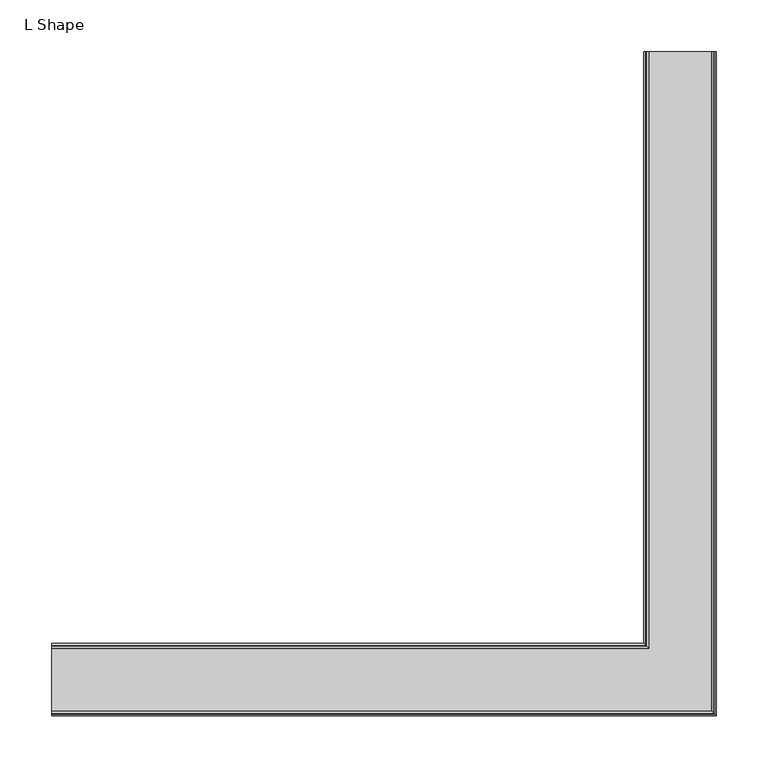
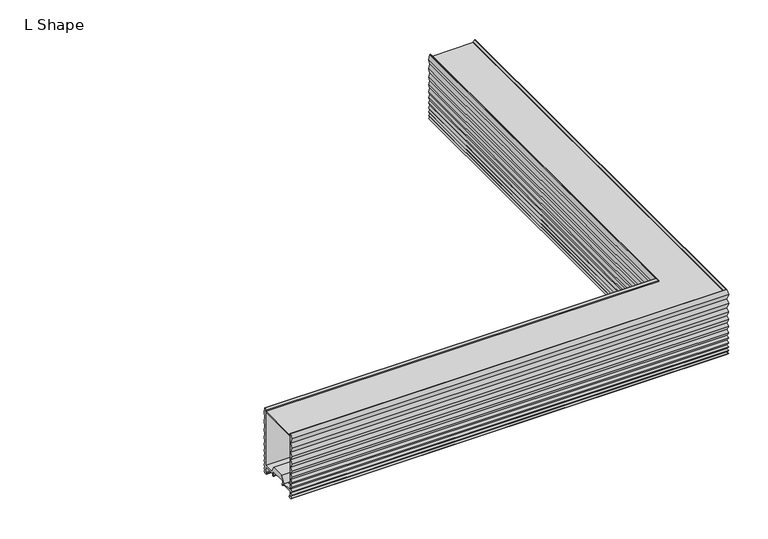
"""IFC4 building model written with IfcOpenShell, lengths in millimetres: light fixture geometry, Lighting-Ceiling-Betacalco-Bellows-L_Shape : L Shape."""

from ifc_helpers import new_model, si_unit, point, frame, frame_2d, origin, place, context, project, spatial, polyline, circle_curve, ellipse_curve, trimmed, segment, composite_curve, outline, extrude, source, transform, mapped, element, save
from ifc_brep_helpers import plane_surface, cylinder_surface, advanced_brep


def l_shape_622036a6(model_context):
    return source(origin(), model_context, "Body", "SolidModel", [
        extrude(outline(composite_curve([segment(trimmed(circle_curve(frame_2d((304.8, 0.0)), 1.5875), [point((303.2125, 0.0))], [point((306.3875, 0.0))], False, "CARTESIAN"), True, "CONTINUOUS"), segment(trimmed(circle_curve(frame_2d((304.8, 0.0)), 1.5875), [point((306.3875, 0.0))], [point((303.2125, 0.0))], False, "CARTESIAN"), True, "CONTINUOUS")], self_intersect=False)), frame((0.0, 0.0, 13.5891701), z_axis=(0.0, 0.0, 1.0), x_axis=(1.0, 0.0, 0.0)), (0.0, 0.0, 1.0), 1.2441624),
        advanced_brep(
        [(273.578, 609.6, 10.668), (273.578, 609.6, 2.159), (276.1074155, 609.6, 2.159), (274.1622, 609.6, 0.0), (271.5112057, 609.6, 0.0), (269.6378379, 609.6, 2.0283861), (271.419, 609.6, 4.064), (269.641, 609.6, 6.604), (271.419, 609.6, 9.144), (269.641, 609.6, 12.192), (271.419, 609.6, 15.24), (269.641, 609.6, 18.796), (271.419, 609.6, 22.352), (269.641, 609.6, 26.162), (271.419, 609.6, 29.972), (269.6696413, 609.6, 34.4703509), (271.3917998, 609.6, 39.0460566), (269.6644945, 609.6, 44.1288728), (271.3965785, 609.6, 49.2119386), (269.6606035, 609.6, 54.802389), (271.4002163, 609.6, 60.3929656), (269.6575947, 609.6, 66.491104), (271.4035969, 609.6, 72.5911894), (269.6533208, 609.6, 79.7067168), (271.4068918, 609.6, 86.8195673), (269.6525087, 609.6, 94.186321), (271.4185068, 609.6, 101.6), (272.2122568, 609.6, 101.6), (274.37175, 609.6, 99.2470342), (274.37175, 609.6, 97.7961196), (273.578, 609.6, 97.7961196), (273.578, 609.6, 12.827), (289.3193854, 609.6, 12.827), (294.1777745, 609.6, 22.5473325), (315.4222255, 609.6, 22.5473325), (320.2806146, 609.6, 12.827), (336.022, 609.6, 12.827), (336.022, 609.6, 97.7961196), (335.22825, 609.6, 97.7961196), (335.22825, 609.6, 99.2470342), (337.3877432, 609.6, 101.6), (338.1814932, 609.6, 101.6), (339.9474913, 609.6, 94.186321), (338.1931082, 609.6, 86.8195673), (339.9466792, 609.6, 79.7067168), (338.1964031, 609.6, 72.5911894), (339.9424053, 609.6, 66.491104), (338.1997837, 609.6, 60.3929656), (339.9393965, 609.6, 54.802389), (338.2034215, 609.6, 49.2119386), (339.9355055, 609.6, 44.1288728), (338.2082002, 609.6, 39.0460566), (339.9303587, 609.6, 34.4703509), (338.181, 609.6, 29.972), (339.959, 609.6, 26.162), (338.181, 609.6, 22.352), (339.959, 609.6, 18.796), (338.181, 609.6, 15.24), (339.959, 609.6, 12.192), (338.181, 609.6, 9.144), (339.959, 609.6, 6.604), (338.181, 609.6, 4.064), (339.9621621, 609.6, 2.0283861), (338.0887943, 609.6, 0.0), (335.4378, 609.6, 0.0), (333.4925845, 609.6, 2.159), (336.022, 609.6, 2.159), (336.022, 609.6, 10.668), (318.3129289, 609.6, 10.668), (317.5429679, 609.6, 8.614822), (315.8552644, 609.6, 9.2406239), (317.48601, 609.6, 13.5891701), (316.8641563, 609.6, 14.8333325), (292.7358437, 609.6, 14.8333325), (292.11399, 609.6, 13.5891701), (293.7447356, 609.6, 9.2406239), (292.0570321, 609.6, 8.614822), (291.2870711, 609.6, 10.668), (-304.8, 31.222, 10.668), (-304.8, 13.5129289, 10.668), (-304.8, 12.7429679, 8.614822), (-304.8, 11.0552644, 9.2406239), (-304.8, 12.68601, 13.5891701), (-304.8, 12.0641563, 14.8333325), (-304.8, -12.0641563, 14.8333325), (-304.8, -12.68601, 13.5891701), (-304.8, -11.0552644, 9.2406239), (-304.8, -12.7429679, 8.614822), (-304.8, -13.5129289, 10.668), (-304.8, -31.222, 10.668), (-304.8, -31.222, 2.159), (-304.8, -28.6925845, 2.159), (-304.8, -30.6378, 0.0), (-304.8, -33.2887943, 0.0), (-304.8, -35.1621621, 2.0283861), (-304.8, -33.381, 4.064), (-304.8, -35.159, 6.604), (-304.8, -33.381, 9.144), (-304.8, -35.159, 12.192), (-304.8, -33.381, 15.24), (-304.8, -35.159, 18.796), (-304.8, -33.381, 22.352), (-304.8, -35.159, 26.162), (-304.8, -33.381, 29.972), (-304.8, -35.1303587, 34.4703509), (-304.8, -33.4082002, 39.0460566), (-304.8, -35.1355055, 44.1288728), (-304.8, -33.4034215, 49.2119386), (-304.8, -35.1393965, 54.802389), (-304.8, -33.3997837, 60.3929656), (-304.8, -35.1424053, 66.491104), (-304.8, -33.3964031, 72.5911894), (-304.8, -35.1466792, 79.7067168), (-304.8, -33.3931082, 86.8195673), (-304.8, -35.1474913, 94.186321), (-304.8, -33.3814932, 101.6), (-304.8, -32.5877432, 101.6), (-304.8, -30.42825, 99.2470342), (-304.8, -30.42825, 97.7961196), (-304.8, -31.222, 97.7961196), (-304.8, -31.222, 12.827), (-304.8, -15.4806146, 12.827), (-304.8, -10.6222255, 22.5473325), (-304.8, 10.6222255, 22.5473325), (-304.8, 15.4806146, 12.827), (-304.8, 31.222, 12.827), (-304.8, 31.222, 97.7961196), (-304.8, 30.42825, 97.7961196), (-304.8, 30.42825, 99.2470342), (-304.8, 32.5877432, 101.6), (-304.8, 33.3814932, 101.6), (-304.8, 35.1474913, 94.186321), (-304.8, 33.3931082, 86.8195673), (-304.8, 35.1466792, 79.7067168), (-304.8, 33.3964031, 72.5911894), (-304.8, 35.1424053, 66.491104), (-304.8, 33.3997837, 60.3929656), (-304.8, 35.1393965, 54.802389), (-304.8, 33.4034215, 49.2119386), (-304.8, 35.1355055, 44.1288728), (-304.8, 33.4082002, 39.0460566), (-304.8, 35.1303587, 34.4703509), (-304.8, 33.381, 29.972), (-304.8, 35.159, 26.162), (-304.8, 33.381, 22.352), (-304.8, 35.159, 18.796), (-304.8, 33.381, 15.24), (-304.8, 35.159, 12.192), (-304.8, 33.381, 9.144), (-304.8, 35.159, 6.604), (-304.8, 33.381, 4.064), (-304.8, 35.1621621, 2.0283861), (-304.8, 33.2887943, 0.0), (-304.8, 30.6378, 0.0), (-304.8, 28.6925845, 2.159), (-304.8, 31.222, 2.159), (292.0570321, 12.7429679, 8.614822), (291.2870711, 13.5129289, 10.668), (293.7447356, 11.0552644, 9.2406239), (292.11399, 12.68601, 13.5891701), (292.7358437, 12.0641563, 14.8333325), (317.48601, -12.68601, 13.5891701), (316.8641563, -12.0641563, 14.8333325), (315.8552644, -11.0552644, 9.2406239), (317.5429679, -12.7429679, 8.614822), (318.3129289, -13.5129289, 10.668), (336.022, -31.222, 2.159), (336.022, -31.222, 10.668), (335.4378, -30.6378, 0.0), (333.4925845, -28.6925845, 2.159), (339.9621621, -35.1621621, 2.0283861), (338.0887943, -33.2887943, 0.0), (338.181, -33.381, 4.064), (339.959, -35.159, 6.604), (338.181, -33.381, 9.144), (339.959, -35.159, 12.192), (338.181, -33.381, 15.24), (339.959, -35.159, 18.796), (338.181, -33.381, 22.352), (339.959, -35.159, 26.162), (338.181, -33.381, 29.972), (339.9303587, -35.1303587, 34.4703509), (338.2082002, -33.4082002, 39.0460566), (339.9355055, -35.1355055, 44.1288728), (338.2034215, -33.4034215, 49.2119386), (339.9393965, -35.1393965, 54.802389), (338.1997837, -33.3997837, 60.3929656), (339.9424053, -35.1424053, 66.491104), (338.1964031, -33.3964031, 72.5911894), (339.9466792, -35.1466792, 79.7067168), (338.1931082, -33.3931082, 86.8195673), (339.9474913, -35.1474913, 94.186321), (338.1814932, -33.3814932, 101.6), (335.22825, -30.42825, 99.2470342), (337.3877432, -32.5877432, 101.6), (335.22825, -30.42825, 97.7961196), (336.022, -31.222, 12.827), (336.022, -31.222, 97.7961196), (315.4222255, -10.6222255, 22.5473325), (320.2806146, -15.4806146, 12.827), (289.3193854, 15.4806146, 12.827), (294.1777745, 10.6222255, 22.5473325), (273.578, 31.222, 97.7961196), (273.578, 31.222, 12.827), (274.37175, 30.42825, 99.2470342), (274.37175, 30.42825, 97.7961196), (272.2122568, 32.5877432, 101.6), (269.6525087, 35.1474913, 94.186321), (271.4185068, 33.3814932, 101.6), (271.4068918, 33.3931082, 86.8195673), (269.6533208, 35.1466792, 79.7067168), (271.4035969, 33.3964031, 72.5911894), (269.6575947, 35.1424053, 66.491104), (271.4002163, 33.3997837, 60.3929656), (269.6606035, 35.1393965, 54.802389), (271.3965785, 33.4034215, 49.2119386), (269.6644945, 35.1355055, 44.1288728), (271.3917998, 33.4082002, 39.0460566), (269.6696413, 35.1303587, 34.4703509), (271.419, 33.381, 29.972), (269.641, 35.159, 26.162), (271.419, 33.381, 22.352), (269.641, 35.159, 18.796), (271.419, 33.381, 15.24), (269.641, 35.159, 12.192), (271.419, 33.381, 9.144), (269.641, 35.159, 6.604), (271.419, 33.381, 4.064), (269.6378379, 35.1621621, 2.0283861), (271.5112057, 33.2887943, 0.0), (276.1074155, 28.6925845, 2.159), (274.1622, 30.6378, 0.0), (273.578, 31.222, 10.668), (273.578, 31.222, 2.159)],
        [
            (0, 1),
            (1, 2),
            (2, 3, circle_curve(frame((274.1622, 609.6, 1.9558), z_axis=(0.0, 1.0, 0.0), x_axis=(0.0, 0.0, -1.0)), 1.9558)),
            (3, 4),
            (4, 5),
            (5, 6),
            (6, 7),
            (7, 8),
            (8, 9),
            (9, 10),
            (10, 11),
            (11, 12),
            (12, 13),
            (13, 14),
            (14, 15),
            (15, 16),
            (16, 17),
            (17, 18),
            (18, 19),
            (19, 20),
            (20, 21),
            (21, 22),
            (22, 23),
            (23, 24),
            (24, 25),
            (25, 26),
            (26, 27),
            (27, 28),
            (28, 29),
            (29, 30),
            (30, 31),
            (31, 32),
            (32, 33),
            (33, 34),
            (34, 35),
            (35, 36),
            (36, 37),
            (37, 38),
            (38, 39),
            (39, 40),
            (40, 41),
            (41, 42),
            (42, 43),
            (43, 44),
            (44, 45),
            (45, 46),
            (46, 47),
            (47, 48),
            (48, 49),
            (49, 50),
            (50, 51),
            (51, 52),
            (52, 53),
            (53, 54),
            (54, 55),
            (55, 56),
            (56, 57),
            (57, 58),
            (58, 59),
            (59, 60),
            (60, 61),
            (61, 62),
            (62, 63),
            (63, 64),
            (64, 65, circle_curve(frame((335.4378, 609.6, 1.9558), z_axis=(0.0, 1.0, 0.0), x_axis=(0.0, 0.0, -1.0)), 1.9558)),
            (65, 66),
            (66, 67),
            (67, 68),
            (68, 69),
            (69, 70, circle_curve(frame((316.7002723, 609.6, 8.9308408), z_axis=(0.0, 1.0, 0.0), x_axis=(-0.34325550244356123, 0.0, -0.9392420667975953)), 0.9000021)),
            (70, 71),
            (71, 72),
            (72, 73),
            (73, 74),
            (74, 75),
            (75, 76, circle_curve(frame((292.8997277, 609.6, 8.9308408), z_axis=(0.0, 1.0, 0.0), x_axis=(0.34325550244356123, 0.0, -0.9392420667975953)), 0.9000021)),
            (76, 77),
            (77, 0),
            (78, 79),
            (79, 80),
            (80, 81, circle_curve(frame((-304.8, 11.9002723, 8.9308408), z_axis=(-1.0, 0.0, 0.0), x_axis=(0.0, -0.34325550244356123, -0.9392420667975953)), 0.9000021)),
            (81, 82),
            (82, 83),
            (83, 84),
            (84, 85),
            (85, 86),
            (86, 87, circle_curve(frame((-304.8, -11.9002723, 8.9308408), z_axis=(-1.0, 0.0, 0.0), x_axis=(0.0, 0.34325550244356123, -0.9392420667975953)), 0.9000021)),
            (87, 88),
            (88, 89),
            (89, 90),
            (90, 91),
            (91, 92, circle_curve(frame((-304.8, -30.6378, 1.9558), z_axis=(-1.0, 0.0, 0.0), x_axis=(0.0, 0.0, -1.0)), 1.9558)),
            (92, 93),
            (93, 94),
            (94, 95),
            (95, 96),
            (96, 97),
            (97, 98),
            (98, 99),
            (99, 100),
            (100, 101),
            (101, 102),
            (102, 103),
            (103, 104),
            (104, 105),
            (105, 106),
            (106, 107),
            (107, 108),
            (108, 109),
            (109, 110),
            (110, 111),
            (111, 112),
            (112, 113),
            (113, 114),
            (114, 115),
            (115, 116),
            (116, 117),
            (117, 118),
            (118, 119),
            (119, 120),
            (120, 121),
            (121, 122),
            (122, 123),
            (123, 124),
            (124, 125),
            (125, 126),
            (126, 127),
            (127, 128),
            (128, 129),
            (129, 130),
            (130, 131),
            (131, 132),
            (132, 133),
            (133, 134),
            (134, 135),
            (135, 136),
            (136, 137),
            (137, 138),
            (138, 139),
            (139, 140),
            (140, 141),
            (141, 142),
            (142, 143),
            (143, 144),
            (144, 145),
            (145, 146),
            (146, 147),
            (147, 148),
            (148, 149),
            (149, 150),
            (150, 151),
            (151, 152),
            (152, 153),
            (153, 154, circle_curve(frame((-304.8, 30.6378, 1.9558), z_axis=(-1.0, 0.0, 0.0), x_axis=(0.0, 0.0, -1.0)), 1.9558)),
            (154, 155),
            (155, 78),
            (156, 80),
            (79, 157),
            (157, 156),
            (158, 81),
            (156, 158, ellipse_curve(frame((292.8997277, 11.9002723, 8.9308408), z_axis=(-0.7071067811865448, -0.7071067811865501, 0.0), x_axis=(0.7071067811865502, -0.7071067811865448, 0.0)), 1.2727952, 0.9000021)),
            (159, 82),
            (158, 159),
            (160, 83),
            (159, 160),
            (161, 85),
            (84, 162),
            (162, 161),
            (163, 86),
            (161, 163),
            (164, 87),
            (163, 164, ellipse_curve(frame((316.7002723, -11.9002723, 8.9308408), z_axis=(-0.7071067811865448, -0.7071067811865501, 0.0), x_axis=(0.7071067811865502, -0.7071067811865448, 0.0)), 1.2727952, 0.9000021)),
            (165, 88),
            (164, 165),
            (166, 90),
            (89, 167),
            (167, 166),
            (168, 92),
            (91, 169),
            (169, 168, ellipse_curve(frame((335.4378, -30.6378, 1.9558), z_axis=(-0.7071067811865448, -0.7071067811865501, 0.0), x_axis=(0.7071067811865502, -0.7071067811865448, 0.0)), 2.7659189, 1.9558)),
            (170, 94),
            (93, 171),
            (171, 170),
            (172, 95),
            (170, 172),
            (173, 96),
            (172, 173),
            (174, 97),
            (173, 174),
            (175, 98),
            (174, 175),
            (176, 99),
            (175, 176),
            (177, 100),
            (176, 177),
            (178, 101),
            (177, 178),
            (179, 102),
            (178, 179),
            (180, 103),
            (179, 180),
            (181, 104),
            (180, 181),
            (182, 105),
            (181, 182),
            (183, 106),
            (182, 183),
            (184, 107),
            (183, 184),
            (185, 108),
            (184, 185),
            (186, 109),
            (185, 186),
            (187, 110),
            (186, 187),
            (188, 111),
            (187, 188),
            (189, 112),
            (188, 189),
            (190, 113),
            (189, 190),
            (191, 114),
            (190, 191),
            (192, 115),
            (191, 192),
            (193, 117),
            (116, 194),
            (194, 193),
            (195, 118),
            (193, 195),
            (196, 120),
            (119, 197),
            (197, 196),
            (198, 122),
            (121, 199),
            (199, 198),
            (200, 124),
            (123, 201),
            (201, 200),
            (202, 126),
            (125, 203),
            (203, 202),
            (204, 128),
            (127, 205),
            (205, 204),
            (206, 129),
            (204, 206),
            (207, 131),
            (130, 208),
            (208, 207),
            (209, 132),
            (207, 209),
            (210, 133),
            (209, 210),
            (211, 134),
            (210, 211),
            (212, 135),
            (211, 212),
            (213, 136),
            (212, 213),
            (214, 137),
            (213, 214),
            (215, 138),
            (214, 215),
            (216, 139),
            (215, 216),
            (217, 140),
            (216, 217),
            (218, 141),
            (217, 218),
            (219, 142),
            (218, 219),
            (220, 143),
            (219, 220),
            (221, 144),
            (220, 221),
            (222, 145),
            (221, 222),
            (223, 146),
            (222, 223),
            (224, 147),
            (223, 224),
            (225, 148),
            (224, 225),
            (226, 149),
            (225, 226),
            (227, 150),
            (226, 227),
            (228, 151),
            (227, 228),
            (229, 152),
            (228, 229),
            (230, 154),
            (153, 231),
            (231, 230, ellipse_curve(frame((274.1622, 30.6378, 1.9558), z_axis=(-0.7071067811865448, -0.7071067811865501, 0.0), x_axis=(0.7071067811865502, -0.7071067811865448, 0.0)), 2.7659189, 1.9558)),
            (232, 78),
            (155, 233),
            (233, 232),
            (77, 157),
            (232, 0),
            (76, 156),
            (75, 158),
            (74, 159),
            (73, 160),
            (72, 162),
            (71, 161),
            (70, 163),
            (69, 164),
            (68, 165),
            (67, 167),
            (66, 166),
            (65, 169),
            (64, 168),
            (63, 171),
            (62, 170),
            (61, 172),
            (60, 173),
            (59, 174),
            (58, 175),
            (57, 176),
            (56, 177),
            (55, 178),
            (54, 179),
            (53, 180),
            (52, 181),
            (51, 182),
            (50, 183),
            (49, 184),
            (48, 185),
            (47, 186),
            (46, 187),
            (45, 188),
            (44, 189),
            (43, 190),
            (42, 191),
            (41, 192),
            (40, 194),
            (39, 193),
            (38, 195),
            (37, 197),
            (36, 196),
            (35, 199),
            (34, 198),
            (33, 201),
            (32, 200),
            (31, 203),
            (30, 202),
            (29, 205),
            (28, 204),
            (27, 206),
            (26, 208),
            (25, 207),
            (24, 209),
            (23, 210),
            (22, 211),
            (21, 212),
            (20, 213),
            (19, 214),
            (18, 215),
            (17, 216),
            (16, 217),
            (15, 218),
            (14, 219),
            (13, 220),
            (12, 221),
            (11, 222),
            (10, 223),
            (9, 224),
            (8, 225),
            (7, 226),
            (6, 227),
            (5, 228),
            (4, 229),
            (3, 231),
            (2, 230),
            (1, 233),
        ],
        [
            plane_surface(frame((304.8, 609.6, 0.0), z_axis=(0.0, 1.0, 0.0), x_axis=(0.0, 0.0, 1.0))),
            plane_surface(frame((-304.8, 0.0, 0.0), z_axis=(-1.0, 0.0, 0.0), x_axis=(0.0, 0.0, 1.0))),
            plane_surface(frame((291.2870711, 13.5129289, 10.668), z_axis=(0.0, 0.9363262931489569, -0.3511311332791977), x_axis=(-1.0, 0.0, 0.0))),
            cylinder_surface(frame((304.8, 11.9002723, 8.9308408), z_axis=(1.0, 0.0, 0.0), x_axis=(0.0, -0.34325550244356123, -0.9392420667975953)), 0.9000021),
            plane_surface(frame((293.7447356, 11.0552644, 9.2406239), z_axis=(0.0, -0.9363262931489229, 0.35113113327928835), x_axis=(-1.0, 0.0, 0.0))),
            plane_surface(frame((292.11399, 12.68601, 13.5891701), z_axis=(0.0, -0.89449260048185, -0.44708275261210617), x_axis=(-1.0, 0.0, 0.0))),
            plane_surface(frame((316.8641563, -12.0641563, 14.8333325), z_axis=(0.0, 0.89449260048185, -0.44708275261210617), x_axis=(-1.0, 0.0, 0.0))),
            plane_surface(frame((317.48601, -12.68601, 13.5891701), z_axis=(0.0, 0.9363262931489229, 0.35113113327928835), x_axis=(-1.0, 0.0, 0.0))),
            cylinder_surface(frame((304.8, -11.9002723, 8.9308408), z_axis=(1.0, 0.0, 0.0), x_axis=(0.0, 0.34325550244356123, -0.9392420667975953)), 0.9000021),
            plane_surface(frame((317.5429679, -12.7429679, 8.614822), z_axis=(0.0, -0.9363262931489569, -0.3511311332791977), x_axis=(-1.0, 0.0, 0.0))),
            plane_surface(frame((336.022, -31.222, 10.668), z_axis=(0.0, 1.0, 0.0), x_axis=(-1.0, 0.0, 0.0))),
            cylinder_surface(frame((304.8, -30.6378, 1.9558), z_axis=(1.0, 0.0, 0.0), x_axis=(0.0, 0.0, -1.0)), 1.9558),
            plane_surface(frame((338.0887943, -33.2887943, 0.0), z_axis=(0.0, -0.7346208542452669, -0.6784778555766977), x_axis=(-1.0, 0.0, 0.0))),
            plane_surface(frame((339.9621621, -35.1621621, 2.0283861), z_axis=(0.0, -0.75257669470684, 0.6585046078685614), x_axis=(-1.0, 0.0, 0.0))),
            plane_surface(frame((338.181, -33.381, 4.064), z_axis=(0.0, -0.8192319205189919, -0.5734623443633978), x_axis=(-1.0, 0.0, 0.0))),
            plane_surface(frame((339.959, -35.159, 6.604), z_axis=(0.0, -0.8192319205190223, 0.5734623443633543), x_axis=(-1.0, 0.0, 0.0))),
            plane_surface(frame((338.181, -33.381, 9.144), z_axis=(0.0, -0.8637789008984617, -0.503871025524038), x_axis=(-1.0, 0.0, 0.0))),
            plane_surface(frame((339.959, -35.159, 12.192), z_axis=(0.0, -0.8637789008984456, 0.5038710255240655), x_axis=(-1.0, 0.0, 0.0))),
            plane_surface(frame((338.181, -33.381, 15.24), z_axis=(0.0, -0.8944271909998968, -0.4472135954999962), x_axis=(-1.0, 0.0, 0.0))),
            plane_surface(frame((339.959, -35.159, 18.796), z_axis=(0.0, -0.8944271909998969, 0.44721359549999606), x_axis=(-1.0, 0.0, 0.0))),
            plane_surface(frame((338.181, -33.381, 22.352), z_axis=(0.0, -0.9061831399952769, -0.4228854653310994), x_axis=(-1.0, 0.0, 0.0))),
            plane_surface(frame((339.959, -35.159, 26.162), z_axis=(0.0, -0.9061831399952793, 0.4228854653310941), x_axis=(-1.0, 0.0, 0.0))),
            plane_surface(frame((338.181, -33.381, 29.972), z_axis=(0.0, -0.9320046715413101, -0.362446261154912), x_axis=(-1.0, 0.0, 0.0))),
            plane_surface(frame((339.9303587, -35.1303587, 34.4703509), z_axis=(0.0, -0.9359069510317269, 0.35224732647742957), x_axis=(-1.0, 0.0, 0.0))),
            plane_surface(frame((338.2082002, -33.4082002, 39.0460566), z_axis=(0.0, -0.9468211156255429, -0.3217604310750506), x_axis=(-1.0, 0.0, 0.0))),
            plane_surface(frame((339.9355055, -35.1355055, 44.1288728), z_axis=(0.0, -0.9465545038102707, 0.3225439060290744), x_axis=(-1.0, 0.0, 0.0))),
            plane_surface(frame((338.2034215, -33.4034215, 49.2119386), z_axis=(0.0, -0.9550153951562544, -0.2965562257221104), x_axis=(-1.0, 0.0, 0.0))),
            plane_surface(frame((339.9393965, -35.1393965, 54.802389), z_axis=(0.0, -0.9548411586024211, 0.29711674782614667), x_axis=(-1.0, 0.0, 0.0))),
            plane_surface(frame((338.1997837, -33.3997837, 60.3929656), z_axis=(0.0, -0.9615116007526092, -0.2747643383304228), x_axis=(-1.0, 0.0, 0.0))),
            plane_surface(frame((339.9424053, -35.1424053, 66.491104), z_axis=(0.0, -0.9613939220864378, 0.27517581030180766), x_axis=(-1.0, 0.0, 0.0))),
            plane_surface(frame((338.1964031, -33.3964031, 72.5911894), z_axis=(0.0, -0.971054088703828, -0.23885970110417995), x_axis=(-1.0, 0.0, 0.0))),
            plane_surface(frame((339.9466792, -35.1466792, 79.7067168), z_axis=(0.0, -0.9709287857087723, 0.23936852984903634), x_axis=(-1.0, 0.0, 0.0))),
            plane_surface(frame((338.1931082, -33.3931082, 86.8195673), z_axis=(0.0, -0.9727944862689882, -0.23166978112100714), x_axis=(-1.0, 0.0, 0.0))),
            plane_surface(frame((339.9474913, -35.1474913, 94.186321), z_axis=(0.0, -0.9727814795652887, 0.23172439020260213), x_axis=(-1.0, 0.0, 0.0))),
            plane_surface(frame((337.3877432, -32.5877432, 101.6), z_axis=(0.0, 0.7367472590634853, 0.6761682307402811), x_axis=(-1.0, 0.0, 0.0))),
            plane_surface(frame((335.22825, -30.42825, 99.2470342), z_axis=(0.0, 1.0, 0.0), x_axis=(-1.0, 0.0, 0.0))),
            plane_surface(frame((336.022, -31.222, 97.7961196), z_axis=(0.0, 1.0, 0.0), x_axis=(-1.0, 0.0, 0.0))),
            plane_surface(frame((320.2806146, -15.4806146, 12.827), z_axis=(0.0, -0.8944926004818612, 0.4470827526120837), x_axis=(-1.0, 0.0, 0.0))),
            plane_surface(frame((294.1777745, 10.6222255, 22.5473325), z_axis=(0.0, 0.8944926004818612, 0.4470827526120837), x_axis=(-1.0, 0.0, 0.0))),
            plane_surface(frame((273.578, 31.222, 12.827), z_axis=(0.0, -1.0, 0.0), x_axis=(-1.0, 0.0, 0.0))),
            plane_surface(frame((274.37175, 30.42825, 97.7961196), z_axis=(0.0, -1.0, 0.0), x_axis=(-1.0, 0.0, 0.0))),
            plane_surface(frame((274.37175, 30.42825, 99.2470342), z_axis=(0.0, -0.7367472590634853, 0.6761682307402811), x_axis=(-1.0, 0.0, 0.0))),
            plane_surface(frame((271.4185068, 33.3814932, 101.6), z_axis=(0.0, 0.9727814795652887, 0.23172439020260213), x_axis=(-1.0, 0.0, 0.0))),
            plane_surface(frame((269.6525087, 35.1474913, 94.186321), z_axis=(0.0, 0.9727944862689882, -0.23166978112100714), x_axis=(-1.0, 0.0, 0.0))),
            plane_surface(frame((271.4068918, 33.3931082, 86.8195673), z_axis=(0.0, 0.9709287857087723, 0.23936852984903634), x_axis=(-1.0, 0.0, 0.0))),
            plane_surface(frame((269.6533208, 35.1466792, 79.7067168), z_axis=(0.0, 0.971054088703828, -0.23885970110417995), x_axis=(-1.0, 0.0, 0.0))),
            plane_surface(frame((271.4035969, 33.3964031, 72.5911894), z_axis=(0.0, 0.9613939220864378, 0.27517581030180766), x_axis=(-1.0, 0.0, 0.0))),
            plane_surface(frame((269.6575947, 35.1424053, 66.491104), z_axis=(0.0, 0.9615116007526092, -0.2747643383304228), x_axis=(-1.0, 0.0, 0.0))),
            plane_surface(frame((271.4002163, 33.3997837, 60.3929656), z_axis=(0.0, 0.9548411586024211, 0.29711674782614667), x_axis=(-1.0, 0.0, 0.0))),
            plane_surface(frame((269.6606035, 35.1393965, 54.802389), z_axis=(0.0, 0.9550153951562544, -0.2965562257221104), x_axis=(-1.0, 0.0, 0.0))),
            plane_surface(frame((271.3965785, 33.4034215, 49.2119386), z_axis=(0.0, 0.9465545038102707, 0.3225439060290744), x_axis=(-1.0, 0.0, 0.0))),
            plane_surface(frame((269.6644945, 35.1355055, 44.1288728), z_axis=(0.0, 0.9468211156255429, -0.3217604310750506), x_axis=(-1.0, 0.0, 0.0))),
            plane_surface(frame((271.3917998, 33.4082002, 39.0460566), z_axis=(0.0, 0.9359069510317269, 0.35224732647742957), x_axis=(-1.0, 0.0, 0.0))),
            plane_surface(frame((269.6696413, 35.1303587, 34.4703509), z_axis=(0.0, 0.9320046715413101, -0.362446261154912), x_axis=(-1.0, 0.0, 0.0))),
            plane_surface(frame((271.419, 33.381, 29.972), z_axis=(0.0, 0.9061831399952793, 0.4228854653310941), x_axis=(-1.0, 0.0, 0.0))),
            plane_surface(frame((269.641, 35.159, 26.162), z_axis=(0.0, 0.9061831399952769, -0.4228854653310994), x_axis=(-1.0, 0.0, 0.0))),
            plane_surface(frame((271.419, 33.381, 22.352), z_axis=(0.0, 0.8944271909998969, 0.44721359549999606), x_axis=(-1.0, 0.0, 0.0))),
            plane_surface(frame((269.641, 35.159, 18.796), z_axis=(0.0, 0.8944271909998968, -0.4472135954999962), x_axis=(-1.0, 0.0, 0.0))),
            plane_surface(frame((271.419, 33.381, 15.24), z_axis=(0.0, 0.8637789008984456, 0.5038710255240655), x_axis=(-1.0, 0.0, 0.0))),
            plane_surface(frame((269.641, 35.159, 12.192), z_axis=(0.0, 0.8637789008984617, -0.503871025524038), x_axis=(-1.0, 0.0, 0.0))),
            plane_surface(frame((271.419, 33.381, 9.144), z_axis=(0.0, 0.8192319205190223, 0.5734623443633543), x_axis=(-1.0, 0.0, 0.0))),
            plane_surface(frame((269.641, 35.159, 6.604), z_axis=(0.0, 0.8192319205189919, -0.5734623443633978), x_axis=(-1.0, 0.0, 0.0))),
            plane_surface(frame((271.419, 33.381, 4.064), z_axis=(0.0, 0.75257669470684, 0.6585046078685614), x_axis=(-1.0, 0.0, 0.0))),
            plane_surface(frame((269.6378379, 35.1621621, 2.0283861), z_axis=(0.0, 0.7346208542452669, -0.6784778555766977), x_axis=(-1.0, 0.0, 0.0))),
            cylinder_surface(frame((304.8, 30.6378, 1.9558), z_axis=(1.0, 0.0, 0.0), x_axis=(0.0, 0.0, -1.0)), 1.9558),
            plane_surface(frame((273.578, 31.222, 2.159), z_axis=(0.0, -1.0, 0.0), x_axis=(-1.0, 0.0, 0.0))),
            plane_surface(frame((273.578, 609.6, 10.668), z_axis=(0.0, 0.0, -1.0), x_axis=(0.0, -1.0, 0.0))),
            plane_surface(frame((291.2870711, 609.6, 10.668), z_axis=(-0.9363262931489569, 0.0, -0.3511311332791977), x_axis=(0.0, -1.0, 0.0))),
            cylinder_surface(frame((292.8997277, 609.6, 8.9308408), z_axis=(0.0, 1.0, 0.0), x_axis=(0.34325550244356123, 0.0, -0.9392420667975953)), 0.9000021),
            plane_surface(frame((293.7447356, 609.6, 9.2406239), z_axis=(0.9363262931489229, 0.0, 0.35113113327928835), x_axis=(0.0, -1.0, 0.0))),
            plane_surface(frame((292.11399, 609.6, 13.5891701), z_axis=(0.89449260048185, 0.0, -0.44708275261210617), x_axis=(0.0, -1.0, 0.0))),
            plane_surface(frame((292.7358437, 609.6, 14.8333325), z_axis=(0.0, 0.0, -1.0), x_axis=(0.0, -1.0, 0.0))),
            plane_surface(frame((316.8641563, 609.6, 14.8333325), z_axis=(-0.89449260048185, 0.0, -0.44708275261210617), x_axis=(0.0, -1.0, 0.0))),
            plane_surface(frame((317.48601, 609.6, 13.5891701), z_axis=(-0.9363262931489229, 0.0, 0.35113113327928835), x_axis=(0.0, -1.0, 0.0))),
            cylinder_surface(frame((316.7002723, 609.6, 8.9308408), z_axis=(0.0, 1.0, 0.0), x_axis=(-0.34325550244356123, 0.0, -0.9392420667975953)), 0.9000021),
            plane_surface(frame((317.5429679, 609.6, 8.614822), z_axis=(0.9363262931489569, 0.0, -0.3511311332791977), x_axis=(0.0, -1.0, 0.0))),
            plane_surface(frame((318.3129289, 609.6, 10.668), z_axis=(0.0, 0.0, -1.0), x_axis=(0.0, -1.0, 0.0))),
            plane_surface(frame((336.022, 609.6, 10.668), z_axis=(-1.0, 0.0, 0.0), x_axis=(0.0, -1.0, 0.0))),
            plane_surface(frame((336.022, 609.6, 2.159), z_axis=(0.0, 0.0, 1.0), x_axis=(0.0, -1.0, 0.0))),
            cylinder_surface(frame((335.4378, 609.6, 1.9558), z_axis=(0.0, 1.0, 0.0), x_axis=(0.0, 0.0, -1.0)), 1.9558),
            plane_surface(frame((335.4378, 609.6, 0.0), z_axis=(0.0, 0.0, -1.0), x_axis=(0.0, -1.0, 0.0))),
            plane_surface(frame((338.0887943, 609.6, 0.0), z_axis=(0.7346208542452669, 0.0, -0.6784778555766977), x_axis=(0.0, -1.0, 0.0))),
            plane_surface(frame((339.9621621, 609.6, 2.0283861), z_axis=(0.75257669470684, 0.0, 0.6585046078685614), x_axis=(0.0, -1.0, 0.0))),
            plane_surface(frame((338.181, 609.6, 4.064), z_axis=(0.8192319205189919, 0.0, -0.5734623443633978), x_axis=(0.0, -1.0, 0.0))),
            plane_surface(frame((339.959, 609.6, 6.604), z_axis=(0.8192319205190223, 0.0, 0.5734623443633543), x_axis=(0.0, -1.0, 0.0))),
            plane_surface(frame((338.181, 609.6, 9.144), z_axis=(0.8637789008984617, 0.0, -0.503871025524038), x_axis=(0.0, -1.0, 0.0))),
            plane_surface(frame((339.959, 609.6, 12.192), z_axis=(0.8637789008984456, 0.0, 0.5038710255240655), x_axis=(0.0, -1.0, 0.0))),
            plane_surface(frame((338.181, 609.6, 15.24), z_axis=(0.8944271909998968, 0.0, -0.4472135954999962), x_axis=(0.0, -1.0, 0.0))),
            plane_surface(frame((339.959, 609.6, 18.796), z_axis=(0.8944271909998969, 0.0, 0.44721359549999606), x_axis=(0.0, -1.0, 0.0))),
            plane_surface(frame((338.181, 609.6, 22.352), z_axis=(0.9061831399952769, 0.0, -0.4228854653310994), x_axis=(0.0, -1.0, 0.0))),
            plane_surface(frame((339.959, 609.6, 26.162), z_axis=(0.9061831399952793, 0.0, 0.4228854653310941), x_axis=(0.0, -1.0, 0.0))),
            plane_surface(frame((338.181, 609.6, 29.972), z_axis=(0.9320046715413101, 0.0, -0.362446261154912), x_axis=(0.0, -1.0, 0.0))),
            plane_surface(frame((339.9303587, 609.6, 34.4703509), z_axis=(0.9359069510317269, 0.0, 0.35224732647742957), x_axis=(0.0, -1.0, 0.0))),
            plane_surface(frame((338.2082002, 609.6, 39.0460566), z_axis=(0.9468211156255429, 0.0, -0.3217604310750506), x_axis=(0.0, -1.0, 0.0))),
            plane_surface(frame((339.9355055, 609.6, 44.1288728), z_axis=(0.9465545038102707, 0.0, 0.3225439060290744), x_axis=(0.0, -1.0, 0.0))),
            plane_surface(frame((338.2034215, 609.6, 49.2119386), z_axis=(0.9550153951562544, 0.0, -0.2965562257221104), x_axis=(0.0, -1.0, 0.0))),
            plane_surface(frame((339.9393965, 609.6, 54.802389), z_axis=(0.9548411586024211, 0.0, 0.29711674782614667), x_axis=(0.0, -1.0, 0.0))),
            plane_surface(frame((338.1997837, 609.6, 60.3929656), z_axis=(0.9615116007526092, 0.0, -0.2747643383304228), x_axis=(0.0, -1.0, 0.0))),
            plane_surface(frame((339.9424053, 609.6, 66.491104), z_axis=(0.9613939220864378, 0.0, 0.27517581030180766), x_axis=(0.0, -1.0, 0.0))),
            plane_surface(frame((338.1964031, 609.6, 72.5911894), z_axis=(0.971054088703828, 0.0, -0.23885970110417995), x_axis=(0.0, -1.0, 0.0))),
            plane_surface(frame((339.9466792, 609.6, 79.7067168), z_axis=(0.9709287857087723, 0.0, 0.23936852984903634), x_axis=(0.0, -1.0, 0.0))),
            plane_surface(frame((338.1931082, 609.6, 86.8195673), z_axis=(0.9727944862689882, 0.0, -0.23166978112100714), x_axis=(0.0, -1.0, 0.0))),
            plane_surface(frame((339.9474913, 609.6, 94.186321), z_axis=(0.9727814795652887, 0.0, 0.23172439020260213), x_axis=(0.0, -1.0, 0.0))),
            plane_surface(frame((338.1814932, 609.6, 101.6), z_axis=(0.0, 0.0, 1.0), x_axis=(0.0, -1.0, 0.0))),
            plane_surface(frame((337.3877432, 609.6, 101.6), z_axis=(-0.7367472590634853, 0.0, 0.6761682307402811), x_axis=(0.0, -1.0, 0.0))),
            plane_surface(frame((335.22825, 609.6, 99.2470342), z_axis=(-1.0, 0.0, 0.0), x_axis=(0.0, -1.0, 0.0))),
            plane_surface(frame((335.22825, 609.6, 97.7961196), z_axis=(0.0, 0.0, -1.0), x_axis=(0.0, -1.0, 0.0))),
            plane_surface(frame((336.022, 609.6, 97.7961196), z_axis=(-1.0, 0.0, 0.0), x_axis=(0.0, -1.0, 0.0))),
            plane_surface(frame((336.022, 609.6, 12.827), z_axis=(0.0, 0.0, 1.0), x_axis=(0.0, -1.0, 0.0))),
            plane_surface(frame((320.2806146, 609.6, 12.827), z_axis=(0.8944926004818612, 0.0, 0.4470827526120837), x_axis=(0.0, -1.0, 0.0))),
            plane_surface(frame((315.4222255, 609.6, 22.5473325), z_axis=(0.0, 0.0, 1.0), x_axis=(0.0, -1.0, 0.0))),
            plane_surface(frame((294.1777745, 609.6, 22.5473325), z_axis=(-0.8944926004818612, 0.0, 0.4470827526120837), x_axis=(0.0, -1.0, 0.0))),
            plane_surface(frame((289.3193854, 609.6, 12.827), z_axis=(0.0, 0.0, 1.0), x_axis=(0.0, -1.0, 0.0))),
            plane_surface(frame((273.578, 609.6, 12.827), z_axis=(1.0, 0.0, 0.0), x_axis=(0.0, -1.0, 0.0))),
            plane_surface(frame((273.578, 609.6, 97.7961196), z_axis=(0.0, 0.0, -1.0), x_axis=(0.0, -1.0, 0.0))),
            plane_surface(frame((274.37175, 609.6, 97.7961196), z_axis=(1.0, 0.0, 0.0), x_axis=(0.0, -1.0, 0.0))),
            plane_surface(frame((274.37175, 609.6, 99.2470342), z_axis=(0.7367472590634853, 0.0, 0.6761682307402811), x_axis=(0.0, -1.0, 0.0))),
            plane_surface(frame((272.2122568, 609.6, 101.6), z_axis=(0.0, 0.0, 1.0), x_axis=(0.0, -1.0, 0.0))),
            plane_surface(frame((271.4185068, 609.6, 101.6), z_axis=(-0.9727814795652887, 0.0, 0.23172439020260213), x_axis=(0.0, -1.0, 0.0))),
            plane_surface(frame((269.6525087, 609.6, 94.186321), z_axis=(-0.9727944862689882, 0.0, -0.23166978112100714), x_axis=(0.0, -1.0, 0.0))),
            plane_surface(frame((271.4068918, 609.6, 86.8195673), z_axis=(-0.9709287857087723, 0.0, 0.23936852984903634), x_axis=(0.0, -1.0, 0.0))),
            plane_surface(frame((269.6533208, 609.6, 79.7067168), z_axis=(-0.971054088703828, 0.0, -0.23885970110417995), x_axis=(0.0, -1.0, 0.0))),
            plane_surface(frame((271.4035969, 609.6, 72.5911894), z_axis=(-0.9613939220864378, 0.0, 0.27517581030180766), x_axis=(0.0, -1.0, 0.0))),
            plane_surface(frame((269.6575947, 609.6, 66.491104), z_axis=(-0.9615116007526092, 0.0, -0.2747643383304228), x_axis=(0.0, -1.0, 0.0))),
            plane_surface(frame((271.4002163, 609.6, 60.3929656), z_axis=(-0.9548411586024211, 0.0, 0.29711674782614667), x_axis=(0.0, -1.0, 0.0))),
            plane_surface(frame((269.6606035, 609.6, 54.802389), z_axis=(-0.9550153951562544, 0.0, -0.2965562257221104), x_axis=(0.0, -1.0, 0.0))),
            plane_surface(frame((271.3965785, 609.6, 49.2119386), z_axis=(-0.9465545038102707, 0.0, 0.3225439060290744), x_axis=(0.0, -1.0, 0.0))),
            plane_surface(frame((269.6644945, 609.6, 44.1288728), z_axis=(-0.9468211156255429, 0.0, -0.3217604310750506), x_axis=(0.0, -1.0, 0.0))),
            plane_surface(frame((271.3917998, 609.6, 39.0460566), z_axis=(-0.9359069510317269, 0.0, 0.35224732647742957), x_axis=(0.0, -1.0, 0.0))),
            plane_surface(frame((269.6696413, 609.6, 34.4703509), z_axis=(-0.9320046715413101, 0.0, -0.362446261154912), x_axis=(0.0, -1.0, 0.0))),
            plane_surface(frame((271.419, 609.6, 29.972), z_axis=(-0.9061831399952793, 0.0, 0.4228854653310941), x_axis=(0.0, -1.0, 0.0))),
            plane_surface(frame((269.641, 609.6, 26.162), z_axis=(-0.9061831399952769, 0.0, -0.4228854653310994), x_axis=(0.0, -1.0, 0.0))),
            plane_surface(frame((271.419, 609.6, 22.352), z_axis=(-0.8944271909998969, 0.0, 0.44721359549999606), x_axis=(0.0, -1.0, 0.0))),
            plane_surface(frame((269.641, 609.6, 18.796), z_axis=(-0.8944271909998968, 0.0, -0.4472135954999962), x_axis=(0.0, -1.0, 0.0))),
            plane_surface(frame((271.419, 609.6, 15.24), z_axis=(-0.8637789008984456, 0.0, 0.5038710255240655), x_axis=(0.0, -1.0, 0.0))),
            plane_surface(frame((269.641, 609.6, 12.192), z_axis=(-0.8637789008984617, 0.0, -0.503871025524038), x_axis=(0.0, -1.0, 0.0))),
            plane_surface(frame((271.419, 609.6, 9.144), z_axis=(-0.8192319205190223, 0.0, 0.5734623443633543), x_axis=(0.0, -1.0, 0.0))),
            plane_surface(frame((269.641, 609.6, 6.604), z_axis=(-0.8192319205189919, 0.0, -0.5734623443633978), x_axis=(0.0, -1.0, 0.0))),
            plane_surface(frame((271.419, 609.6, 4.064), z_axis=(-0.75257669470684, 0.0, 0.6585046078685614), x_axis=(0.0, -1.0, 0.0))),
            plane_surface(frame((269.6378379, 609.6, 2.0283861), z_axis=(-0.7346208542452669, 0.0, -0.6784778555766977), x_axis=(0.0, -1.0, 0.0))),
            plane_surface(frame((271.5112057, 609.6, 0.0), z_axis=(0.0, 0.0, -1.0), x_axis=(0.0, -1.0, 0.0))),
            cylinder_surface(frame((274.1622, 609.6, 1.9558), z_axis=(0.0, 1.0, 0.0), x_axis=(0.0, 0.0, -1.0)), 1.9558),
            plane_surface(frame((276.1074155, 609.6, 2.159), z_axis=(0.0, 0.0, 1.0), x_axis=(0.0, -1.0, 0.0))),
            plane_surface(frame((273.578, 609.6, 2.159), z_axis=(1.0, 0.0, 0.0), x_axis=(0.0, -1.0, 0.0))),
        ],
        [
            (0, [[1, 2, 3, 4, 5, 6, 7, 8, 9, 10, 11, 12, 13, 14, 15, 16, 17, 18, 19, 20, 21, 22, 23, 24, 25, 26, 27, 28, 29, 30, 31, 32, 33, 34, 35, 36, 37, 38, 39, 40, 41, 42, 43, 44, 45, 46, 47, 48, 49, 50, 51, 52, 53, 54, 55, 56, 57, 58, 59, 60, 61, 62, 63, 64, 65, 66, 67, 68, 69, 70, 71, 72, 73, 74, 75, 76, 77, 78]]),
            (1, [[79, 80, 81, 82, 83, 84, 85, 86, 87, 88, 89, 90, 91, 92, 93, 94, 95, 96, 97, 98, 99, 100, 101, 102, 103, 104, 105, 106, 107, 108, 109, 110, 111, 112, 113, 114, 115, 116, 117, 118, 119, 120, 121, 122, 123, 124, 125, 126, 127, 128, 129, 130, 131, 132, 133, 134, 135, 136, 137, 138, 139, 140, 141, 142, 143, 144, 145, 146, 147, 148, 149, 150, 151, 152, 153, 154, 155, 156]]),
            (2, [[157, -80, 158, 159]]),
            (3, [[160, -81, -157, 161]]),
            (4, [[162, -82, -160, 163]]),
            (5, [[164, -83, -162, 165]]),
            (6, [[166, -85, 167, 168]]),
            (7, [[169, -86, -166, 170]]),
            (8, [[171, -87, -169, 172]]),
            (9, [[173, -88, -171, 174]]),
            (10, [[175, -90, 176, 177]]),
            (11, [[178, -92, 179, 180]]),
            (12, [[181, -94, 182, 183]]),
            (13, [[184, -95, -181, 185]]),
            (14, [[186, -96, -184, 187]]),
            (15, [[188, -97, -186, 189]]),
            (16, [[190, -98, -188, 191]]),
            (17, [[192, -99, -190, 193]]),
            (18, [[194, -100, -192, 195]]),
            (19, [[196, -101, -194, 197]]),
            (20, [[198, -102, -196, 199]]),
            (21, [[200, -103, -198, 201]]),
            (22, [[202, -104, -200, 203]]),
            (23, [[204, -105, -202, 205]]),
            (24, [[206, -106, -204, 207]]),
            (25, [[208, -107, -206, 209]]),
            (26, [[210, -108, -208, 211]]),
            (27, [[212, -109, -210, 213]]),
            (28, [[214, -110, -212, 215]]),
            (29, [[216, -111, -214, 217]]),
            (30, [[218, -112, -216, 219]]),
            (31, [[220, -113, -218, 221]]),
            (32, [[222, -114, -220, 223]]),
            (33, [[224, -115, -222, 225]]),
            (34, [[226, -117, 227, 228]]),
            (35, [[229, -118, -226, 230]]),
            (36, [[231, -120, 232, 233]]),
            (37, [[234, -122, 235, 236]]),
            (38, [[237, -124, 238, 239]]),
            (39, [[240, -126, 241, 242]]),
            (40, [[243, -128, 244, 245]]),
            (41, [[246, -129, -243, 247]]),
            (42, [[248, -131, 249, 250]]),
            (43, [[251, -132, -248, 252]]),
            (44, [[253, -133, -251, 254]]),
            (45, [[255, -134, -253, 256]]),
            (46, [[257, -135, -255, 258]]),
            (47, [[259, -136, -257, 260]]),
            (48, [[261, -137, -259, 262]]),
            (49, [[263, -138, -261, 264]]),
            (50, [[265, -139, -263, 266]]),
            (51, [[267, -140, -265, 268]]),
            (52, [[269, -141, -267, 270]]),
            (53, [[271, -142, -269, 272]]),
            (54, [[273, -143, -271, 274]]),
            (55, [[275, -144, -273, 276]]),
            (56, [[277, -145, -275, 278]]),
            (57, [[279, -146, -277, 280]]),
            (58, [[281, -147, -279, 282]]),
            (59, [[283, -148, -281, 284]]),
            (60, [[285, -149, -283, 286]]),
            (61, [[287, -150, -285, 288]]),
            (62, [[289, -151, -287, 290]]),
            (63, [[291, -152, -289, 292]]),
            (64, [[293, -154, 294, 295]]),
            (65, [[296, -156, 297, 298]]),
            (66, [[299, -158, -79, -296, 300, -78]]),
            (67, [[301, -159, -299, -77]]),
            (68, [[302, -161, -301, -76]]),
            (69, [[303, -163, -302, -75]]),
            (70, [[304, -165, -303, -74]]),
            (71, [[305, -167, -84, -164, -304, -73]]),
            (72, [[306, -168, -305, -72]]),
            (73, [[307, -170, -306, -71]]),
            (74, [[308, -172, -307, -70]]),
            (75, [[309, -174, -308, -69]]),
            (76, [[310, -176, -89, -173, -309, -68]]),
            (77, [[311, -177, -310, -67]]),
            (78, [[312, -179, -91, -175, -311, -66]]),
            (79, [[313, -180, -312, -65]]),
            (80, [[314, -182, -93, -178, -313, -64]]),
            (81, [[315, -183, -314, -63]]),
            (82, [[316, -185, -315, -62]]),
            (83, [[317, -187, -316, -61]]),
            (84, [[318, -189, -317, -60]]),
            (85, [[319, -191, -318, -59]]),
            (86, [[320, -193, -319, -58]]),
            (87, [[321, -195, -320, -57]]),
            (88, [[322, -197, -321, -56]]),
            (89, [[323, -199, -322, -55]]),
            (90, [[324, -201, -323, -54]]),
            (91, [[325, -203, -324, -53]]),
            (92, [[326, -205, -325, -52]]),
            (93, [[327, -207, -326, -51]]),
            (94, [[328, -209, -327, -50]]),
            (95, [[329, -211, -328, -49]]),
            (96, [[330, -213, -329, -48]]),
            (97, [[331, -215, -330, -47]]),
            (98, [[332, -217, -331, -46]]),
            (99, [[333, -219, -332, -45]]),
            (100, [[334, -221, -333, -44]]),
            (101, [[335, -223, -334, -43]]),
            (102, [[336, -225, -335, -42]]),
            (103, [[337, -227, -116, -224, -336, -41]]),
            (104, [[338, -228, -337, -40]]),
            (105, [[339, -230, -338, -39]]),
            (106, [[340, -232, -119, -229, -339, -38]]),
            (107, [[341, -233, -340, -37]]),
            (108, [[342, -235, -121, -231, -341, -36]]),
            (109, [[343, -236, -342, -35]]),
            (110, [[344, -238, -123, -234, -343, -34]]),
            (111, [[345, -239, -344, -33]]),
            (112, [[346, -241, -125, -237, -345, -32]]),
            (113, [[347, -242, -346, -31]]),
            (114, [[348, -244, -127, -240, -347, -30]]),
            (115, [[349, -245, -348, -29]]),
            (116, [[350, -247, -349, -28]]),
            (117, [[351, -249, -130, -246, -350, -27]]),
            (118, [[352, -250, -351, -26]]),
            (119, [[353, -252, -352, -25]]),
            (120, [[354, -254, -353, -24]]),
            (121, [[355, -256, -354, -23]]),
            (122, [[356, -258, -355, -22]]),
            (123, [[357, -260, -356, -21]]),
            (124, [[358, -262, -357, -20]]),
            (125, [[359, -264, -358, -19]]),
            (126, [[360, -266, -359, -18]]),
            (127, [[361, -268, -360, -17]]),
            (128, [[362, -270, -361, -16]]),
            (129, [[363, -272, -362, -15]]),
            (130, [[364, -274, -363, -14]]),
            (131, [[365, -276, -364, -13]]),
            (132, [[366, -278, -365, -12]]),
            (133, [[367, -280, -366, -11]]),
            (134, [[368, -282, -367, -10]]),
            (135, [[369, -284, -368, -9]]),
            (136, [[370, -286, -369, -8]]),
            (137, [[371, -288, -370, -7]]),
            (138, [[372, -290, -371, -6]]),
            (139, [[373, -292, -372, -5]]),
            (140, [[374, -294, -153, -291, -373, -4]]),
            (141, [[375, -295, -374, -3]]),
            (142, [[376, -297, -155, -293, -375, -2]]),
            (143, [[-300, -298, -376, -1]]),
        ],
    ),
        extrude(outline(polyline([(336.022, 609.6), (336.022, -31.222), (-304.8, -31.222), (-304.8, 31.222), (273.578, 31.222), (273.578, 609.6), (336.022, 609.6)])), frame((0.0, 0.0, 96.3991196), z_axis=(0.0, 0.0, 1.0), x_axis=(1.0, 0.0, 0.0)), (0.0, 0.0, 1.0), 1.397),
    ])


if __name__ == "__main__":
    model = new_model("IFC4")
    model_context = context("Model", 3, world=origin())
    ifc_project = project(units=[si_unit("LENGTHUNIT", "METRE", prefix="MILLI")], contexts=[model_context])
    site = spatial("IfcSite", under=ifc_project)
    building = spatial("IfcBuilding", under=site)
    placement = place(None, origin())
    l_shape_shape = l_shape_622036a6(model_context)
    element("IfcLightFixture", 1, ObjectType="Lighting-Ceiling-Betacalco-Bellows-L_Shape : L Shape", at=placement, inside=building, context=model_context, shape_type="MappedRepresentation", body=[
        mapped(l_shape_shape, transform((0.0, 0.0, 0.0), x_axis=(1.0, 0.0, 0.0), y_axis=(0.0, 1.0, 0.0), z_axis=(0.0, 0.0, 1.0))),
    ])
    save(model, "model.ifc")
